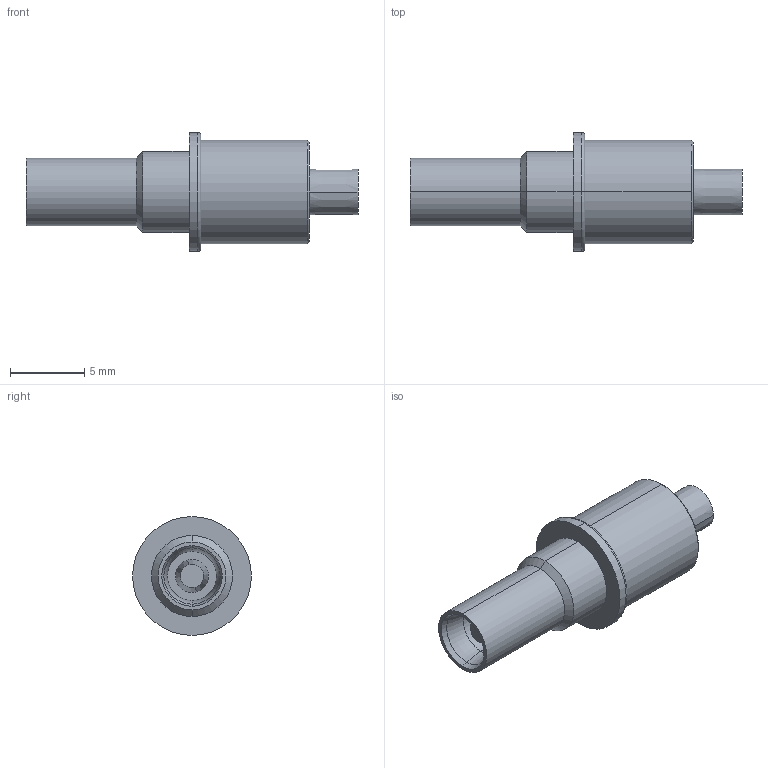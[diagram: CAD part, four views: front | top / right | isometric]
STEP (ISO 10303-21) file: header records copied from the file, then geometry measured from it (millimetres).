
FILE_DESCRIPTION (( 'STEP AP214' ), '1' );
FILE_NAME ('SF9821-6000.STEP', '2017-05-05T20:00:36', ( '' ), ( '' ), 'SwSTEP 2.0', 'SolidWorks 2016', '' );
FILE_SCHEMA (( 'AUTOMOTIVE_DESIGN' ));
Length unit declared in the file: inch
Products named in the file (1): SF9821-6000
Bounding box: 22.33 x 7.99 x 7.99 mm (x, y, z)
Volume: 511 mm3; surface area: 533.7 mm2
Topology: 1 solids, 1 shells, 31 faces, 60 edges, 36 vertices
Faces by surface type: cone 10, cylinder 10, plane 7, torus 4
Entity records: 1176 total; most frequent: DIRECTION 164, CARTESIAN_POINT 128, ORIENTED_EDGE 120, AXIS2_PLACEMENT_3D 72, EDGE_CURVE 60, CIRCLE 40, EDGE_LOOP 36, VERTEX_POINT 36
